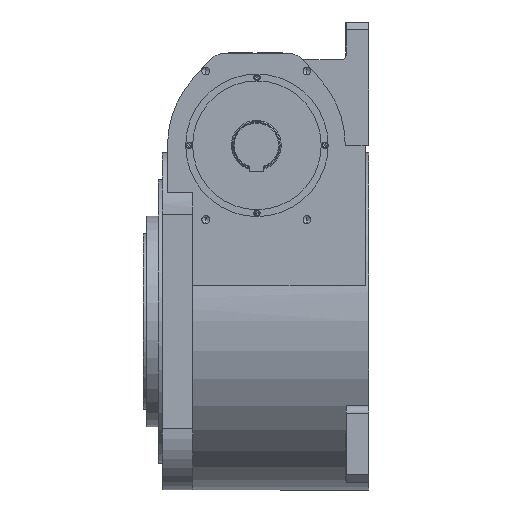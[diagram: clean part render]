
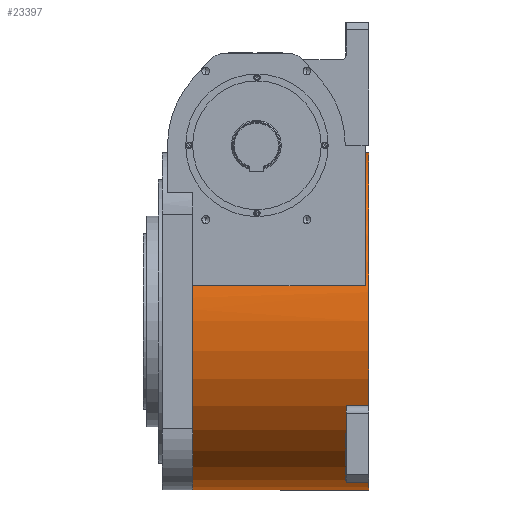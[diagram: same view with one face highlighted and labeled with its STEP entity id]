
A CAD part, left-side view. The second image highlights one B-rep face of the part: STEP entity #23397.
In plain terms, the highlighted cylindrical face has radius 220 mm (diameter 440 mm), a partial arc.
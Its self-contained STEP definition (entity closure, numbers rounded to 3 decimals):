
#123 = CARTESIAN_POINT ( 'NONE',  ( 0., -270., -220. ) ) ;
#775 = CIRCLE ( 'NONE', #37226, 220. ) ;
#1077 = EDGE_CURVE ( 'NONE', #21508, #8284, #18431, .T. ) ;
#1173 = AXIS2_PLACEMENT_3D ( 'NONE', #33240, #14703, #36274 ) ;
#1291 = CARTESIAN_POINT ( 'NONE',  ( -190.526, -270., -110. ) ) ;
#1407 = ORIENTED_EDGE ( 'NONE', *, *, #30023, .F. ) ;
#1874 = CARTESIAN_POINT ( 'NONE',  ( 0., -270., 220. ) ) ;
#2153 = DIRECTION ( 'NONE',  ( 0., 0., 1. ) ) ;
#3159 = EDGE_CURVE ( 'NONE', #21508, #31741, #33390, .T. ) ;
#3236 = CARTESIAN_POINT ( 'NONE',  ( 0., -265., 220. ) ) ;
#3354 = EDGE_CURVE ( 'NONE', #3497, #27680, #775, .T. ) ;
#3497 = VERTEX_POINT ( 'NONE', #25029 ) ;
#4133 = VECTOR ( 'NONE', #22488, 1000. ) ;
#4381 = AXIS2_PLACEMENT_3D ( 'NONE', #24278, #39480, #21288 ) ;
#4452 = EDGE_CURVE ( 'NONE', #10071, #16954, #5104, .T. ) ;
#5104 = CIRCLE ( 'NONE', #31437, 220. ) ;
#5509 = AXIS2_PLACEMENT_3D ( 'NONE', #7241, #29034, #10386 ) ;
#5534 = EDGE_CURVE ( 'NONE', #19552, #9772, #33031, .T. ) ;
#5834 = ORIENTED_EDGE ( 'NONE', *, *, #3159, .F. ) ;
#6717 = LINE ( 'NONE', #1291, #15027 ) ;
#7036 = ORIENTED_EDGE ( 'NONE', *, *, #5534, .T. ) ;
#7241 = CARTESIAN_POINT ( 'NONE',  ( 0., -40., 0. ) ) ;
#7609 = EDGE_LOOP ( 'NONE', ( #1407, #5834, #16622, #9869, #9352, #35736, #22684, #7036, #20696, #14786, #15126 ) ) ;
#7822 = CARTESIAN_POINT ( 'NONE',  ( -220., -40., 0. ) ) ;
#8284 = VERTEX_POINT ( 'NONE', #39522 ) ;
#8644 = DIRECTION ( 'NONE',  ( 0., 1., 0. ) ) ;
#8895 = CARTESIAN_POINT ( 'NONE',  ( -215., -265., 46.637 ) ) ;
#8896 = FACE_OUTER_BOUND ( 'NONE', #7609, .T. ) ;
#9352 = ORIENTED_EDGE ( 'NONE', *, *, #28479, .T. ) ;
#9772 = VERTEX_POINT ( 'NONE', #8895 ) ;
#9869 = ORIENTED_EDGE ( 'NONE', *, *, #22608, .T. ) ;
#10071 = VERTEX_POINT ( 'NONE', #1874 ) ;
#10386 = DIRECTION ( 'NONE',  ( 0., 0., 1. ) ) ;
#10728 = CARTESIAN_POINT ( 'NONE',  ( 0., -270., -220. ) ) ;
#11077 = VECTOR ( 'NONE', #8644, 1000. ) ;
#12108 = CARTESIAN_POINT ( 'NONE',  ( 0., -40., 0. ) ) ;
#13822 = DIRECTION ( 'NONE',  ( 0., -1., 0. ) ) ;
#14703 = DIRECTION ( 'NONE',  ( 0., 1., 0. ) ) ;
#14786 = ORIENTED_EDGE ( 'NONE', *, *, #3354, .T. ) ;
#15027 = VECTOR ( 'NONE', #20023, 1000. ) ;
#15126 = ORIENTED_EDGE ( 'NONE', *, *, #26799, .T. ) ;
#15252 = DIRECTION ( 'NONE',  ( 0., 0., 1. ) ) ;
#15571 = EDGE_CURVE ( 'NONE', #9772, #3497, #27584, .T. ) ;
#15985 = CIRCLE ( 'NONE', #5509, 220. ) ;
#16622 = ORIENTED_EDGE ( 'NONE', *, *, #1077, .T. ) ;
#16954 = VERTEX_POINT ( 'NONE', #19353 ) ;
#18431 = LINE ( 'NONE', #18977, #11077 ) ;
#18445 = CARTESIAN_POINT ( 'NONE',  ( -190.526, -240., -110. ) ) ;
#18468 = DIRECTION ( 'NONE',  ( 0., -1., 0. ) ) ;
#18977 = CARTESIAN_POINT ( 'NONE',  ( -110., -270., -190.526 ) ) ;
#19250 = EDGE_CURVE ( 'NONE', #10071, #19552, #20732, .T. ) ;
#19326 = VECTOR ( 'NONE', #34581, 1000. ) ;
#19353 = CARTESIAN_POINT ( 'NONE',  ( -190.526, -270., -110. ) ) ;
#19552 = VERTEX_POINT ( 'NONE', #3236 ) ;
#19979 = AXIS2_PLACEMENT_3D ( 'NONE', #36848, #18468, #39876 ) ;
#20023 = DIRECTION ( 'NONE',  ( 0., -1., 0. ) ) ;
#20696 = ORIENTED_EDGE ( 'NONE', *, *, #15571, .T. ) ;
#20732 = LINE ( 'NONE', #28623, #4133 ) ;
#20847 = DIRECTION ( 'NONE',  ( 0., -1., 0. ) ) ;
#21288 = DIRECTION ( 'NONE',  ( 0., 0., 1. ) ) ;
#21508 = VERTEX_POINT ( 'NONE', #34783 ) ;
#22488 = DIRECTION ( 'NONE',  ( 0., 1., 0. ) ) ;
#22608 = EDGE_CURVE ( 'NONE', #8284, #32866, #29448, .T. ) ;
#22684 = ORIENTED_EDGE ( 'NONE', *, *, #19250, .T. ) ;
#23397 = ADVANCED_FACE ( 'NONE', ( #8896 ), #29844, .T. ) ;
#24278 = CARTESIAN_POINT ( 'NONE',  ( 0., -270., 0. ) ) ;
#25029 = CARTESIAN_POINT ( 'NONE',  ( -215., -40., 46.637 ) ) ;
#25330 = CARTESIAN_POINT ( 'NONE',  ( -215., -270., 46.637 ) ) ;
#26214 = CARTESIAN_POINT ( 'NONE',  ( 0., -40., -220. ) ) ;
#26799 = EDGE_CURVE ( 'NONE', #27680, #27672, #15985, .T. ) ;
#27584 = LINE ( 'NONE', #25330, #19326 ) ;
#27672 = VERTEX_POINT ( 'NONE', #26214 ) ;
#27680 = VERTEX_POINT ( 'NONE', #7822 ) ;
#27743 = AXIS2_PLACEMENT_3D ( 'NONE', #32398, #13822, #35421 ) ;
#28479 = EDGE_CURVE ( 'NONE', #32866, #16954, #6717, .T. ) ;
#28623 = CARTESIAN_POINT ( 'NONE',  ( 0., -270., 220. ) ) ;
#29034 = DIRECTION ( 'NONE',  ( 0., -1., 0. ) ) ;
#29448 = CIRCLE ( 'NONE', #1173, 220. ) ;
#29844 = CYLINDRICAL_SURFACE ( 'NONE', #4381, 220. ) ;
#30023 = EDGE_CURVE ( 'NONE', #31741, #27672, #39401, .T. ) ;
#31437 = AXIS2_PLACEMENT_3D ( 'NONE', #39204, #20847, #2153 ) ;
#31741 = VERTEX_POINT ( 'NONE', #123 ) ;
#32321 = VECTOR ( 'NONE', #32429, 1000. ) ;
#32398 = CARTESIAN_POINT ( 'NONE',  ( 0., -270., 0. ) ) ;
#32429 = DIRECTION ( 'NONE',  ( 0., 1., 0. ) ) ;
#32866 = VERTEX_POINT ( 'NONE', #18445 ) ;
#33031 = CIRCLE ( 'NONE', #19979, 220. ) ;
#33240 = CARTESIAN_POINT ( 'NONE',  ( 0., -240., 0. ) ) ;
#33390 = CIRCLE ( 'NONE', #27743, 220. ) ;
#33777 = DIRECTION ( 'NONE',  ( 0., -1., 0. ) ) ;
#34581 = DIRECTION ( 'NONE',  ( 0., 1., 0. ) ) ;
#34783 = CARTESIAN_POINT ( 'NONE',  ( -110., -270., -190.526 ) ) ;
#35421 = DIRECTION ( 'NONE',  ( 0., 0., 1. ) ) ;
#35736 = ORIENTED_EDGE ( 'NONE', *, *, #4452, .F. ) ;
#36274 = DIRECTION ( 'NONE',  ( 0., 0., 1. ) ) ;
#36848 = CARTESIAN_POINT ( 'NONE',  ( 0., -265., 0. ) ) ;
#37226 = AXIS2_PLACEMENT_3D ( 'NONE', #12108, #33777, #15252 ) ;
#39204 = CARTESIAN_POINT ( 'NONE',  ( 0., -270., 0. ) ) ;
#39401 = LINE ( 'NONE', #10728, #32321 ) ;
#39480 = DIRECTION ( 'NONE',  ( 0., 1., 0. ) ) ;
#39522 = CARTESIAN_POINT ( 'NONE',  ( -110., -240., -190.526 ) ) ;
#39876 = DIRECTION ( 'NONE',  ( 0., 0., 1. ) ) ;
